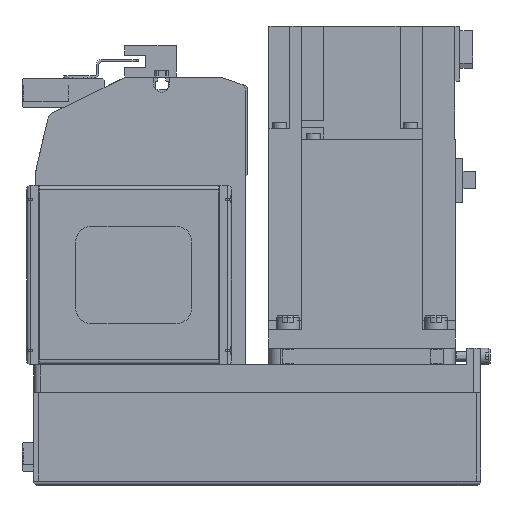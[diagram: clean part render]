
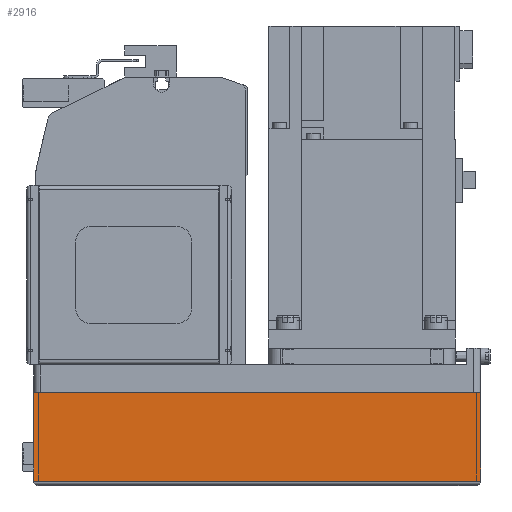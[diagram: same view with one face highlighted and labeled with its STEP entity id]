
A CAD part, left-side view. The second image highlights one B-rep face of the part: STEP entity #2916.
In plain terms, the highlighted planar face has unit normal (-1, 0, 0) as drawn and (0, 1, 0) by its records, which use the part's own axes.
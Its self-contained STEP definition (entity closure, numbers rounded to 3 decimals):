
#2916 = ADVANCED_FACE( '', ( #6255 ), #6256, .T. );
#6255 = FACE_OUTER_BOUND( '', #9873, .T. );
#6256 = PLANE( '', #9874 );
#9873 = EDGE_LOOP( '', ( #18069, #18070, #18071, #18072 ) );
#9874 = AXIS2_PLACEMENT_3D( '', #18073, #18074, #18075 );
#18069 = ORIENTED_EDGE( '', *, *, #21978, .F. );
#18070 = ORIENTED_EDGE( '', *, *, #22715, .F. );
#18071 = ORIENTED_EDGE( '', *, *, #22036, .T. );
#18072 = ORIENTED_EDGE( '', *, *, #23642, .T. );
#18073 = CARTESIAN_POINT( '', ( -192., 40., -50. ) );
#18074 = DIRECTION( '', ( 0., 1., 0. ) );
#18075 = DIRECTION( '', ( 0., 0., 1. ) );
#21978 = EDGE_CURVE( '', #26857, #26859, #26860, .T. );
#22036 = EDGE_CURVE( '', #24621, #26943, #26945, .T. );
#22715 = EDGE_CURVE( '', #24621, #26857, #27961, .T. );
#23642 = EDGE_CURVE( '', #26943, #26859, #29163, .T. );
#24621 = VERTEX_POINT( '', #30439 );
#26857 = VERTEX_POINT( '', #34200 );
#26859 = VERTEX_POINT( '', #34203 );
#26860 = LINE( '', #34204, #34205 );
#26943 = VERTEX_POINT( '', #34328 );
#26945 = LINE( '', #34331, #34332 );
#27961 = LINE( '', #35843, #35844 );
#29163 = LINE( '', #37583, #37584 );
#30439 = CARTESIAN_POINT( '', ( -192., 40., -50. ) );
#34200 = CARTESIAN_POINT( '', ( 0., 40., -50. ) );
#34203 = CARTESIAN_POINT( '', ( 0., 40., -12.1 ) );
#34204 = CARTESIAN_POINT( '', ( 0., 40., -50. ) );
#34205 = VECTOR( '', #40251, 1000. );
#34328 = CARTESIAN_POINT( '', ( -192., 40., -12.1 ) );
#34331 = CARTESIAN_POINT( '', ( -192., 40., -50. ) );
#34332 = VECTOR( '', #40307, 1000. );
#35843 = CARTESIAN_POINT( '', ( -192., 40., -50. ) );
#35844 = VECTOR( '', #41193, 1000. );
#37583 = CARTESIAN_POINT( '', ( -192., 40., -12.1 ) );
#37584 = VECTOR( '', #42160, 1000. );
#40251 = DIRECTION( '', ( 0., 0., 1. ) );
#40307 = DIRECTION( '', ( 0., 0., 1. ) );
#41193 = DIRECTION( '', ( 1., 0., 0. ) );
#42160 = DIRECTION( '', ( 1., 0., 0. ) );
